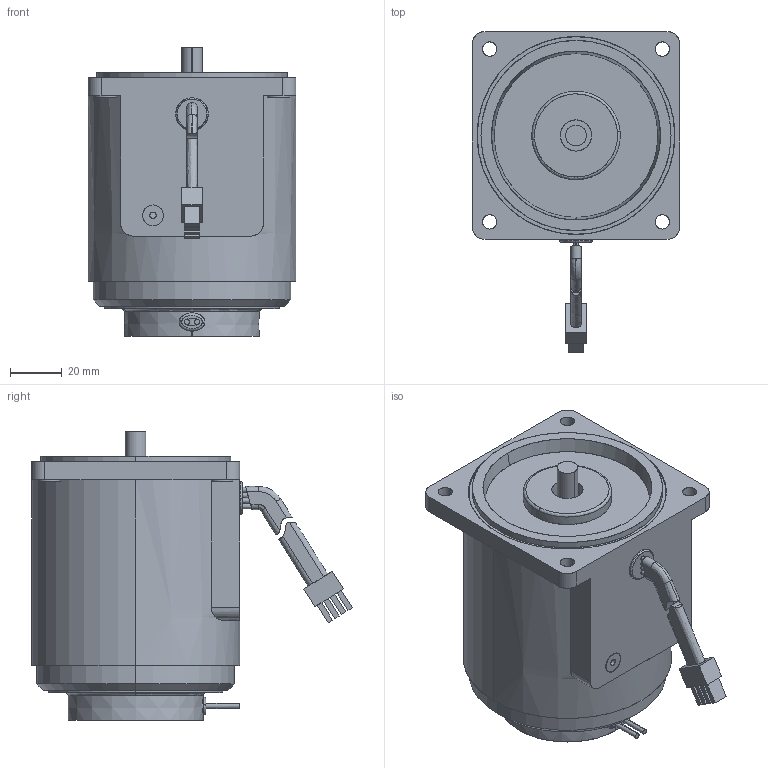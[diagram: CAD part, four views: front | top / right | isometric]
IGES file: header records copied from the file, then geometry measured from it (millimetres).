
Start section: SolidWorks IGES file using analytic representation for surfaces
Global section: file name: \\楷备家烹钦辑滚\data (D)\档搁 枚\权其捞瘤 档搁\7. SPEED INDUCTION\80\25W\(7-30) 8SDG∴-25G.IGS; native system: SolidWorks 2007; preprocessor: SolidWorks 2007; author: user; date: 150703.100148; units: millimetre
Bounding box: 80 x 123.4 x 111 mm (x, y, z)
Surface area: 87110.6 mm2 (no closed solid volume)
Topology: 0 solids, 0 shells, 237 faces, 4829 edges, 4829 vertices
Faces by surface type: bspline 145, revolution 92
